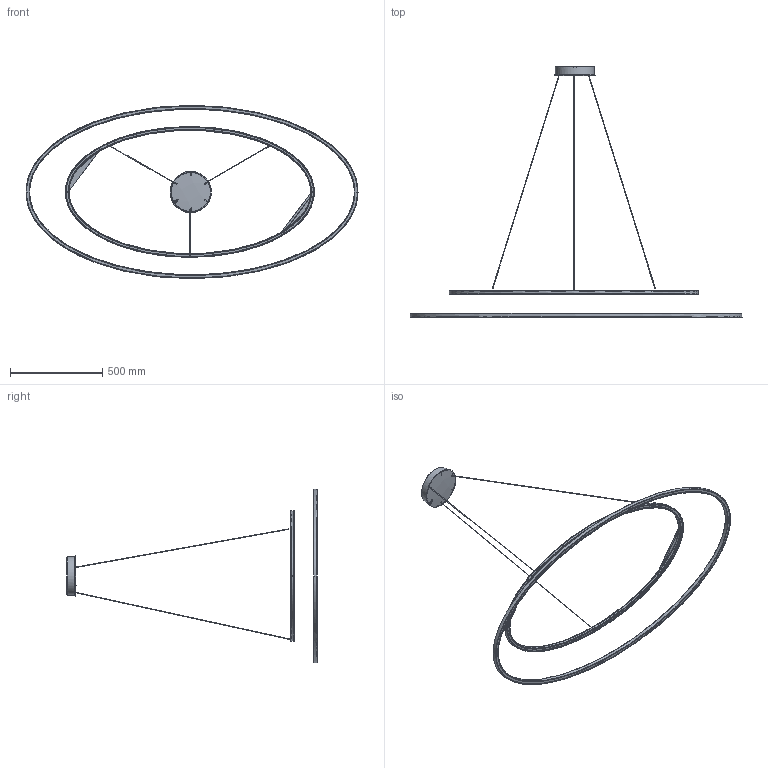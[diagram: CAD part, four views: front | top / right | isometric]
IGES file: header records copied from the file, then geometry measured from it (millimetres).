
Start section: SolidWorks IGES file using analytic representation for surfaces
Global section: file name: C:\Users\blivolsi.NEMOLIGHTING\Downloads\3d_ellisse_pendant_mega.IGS; native system: SolidWorks 2016; preprocessor: SolidWorks 2016; author: blivolsi; date: 200929.140924; units: millimetre
Bounding box: 1799.63 x 1359.11 x 939.63 mm (x, y, z)
Surface area: 1105412.1 mm2 (no closed solid volume)
Topology: 0 solids, 0 shells, 531 faces, 3159 edges, 3154 vertices
Faces by surface type: bspline 270, revolution 261
